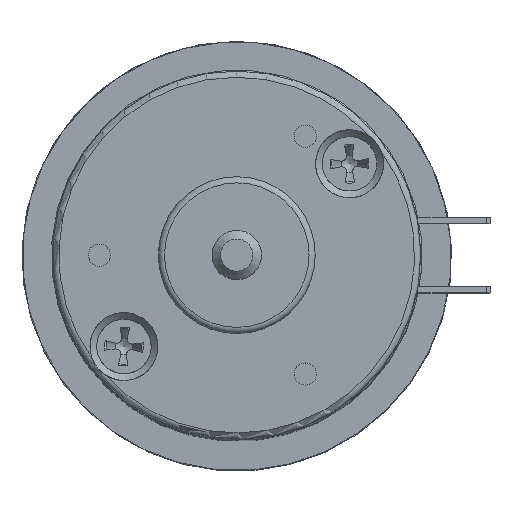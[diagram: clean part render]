
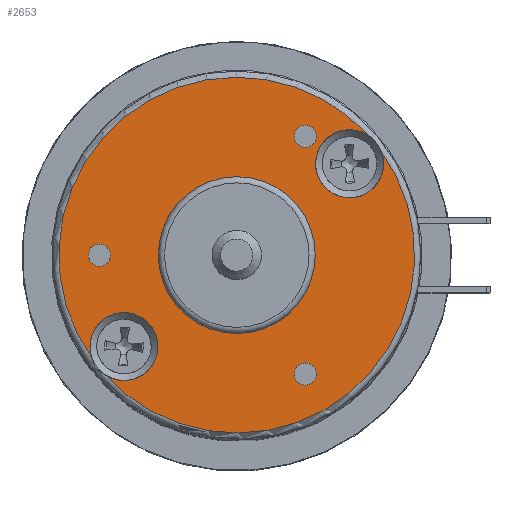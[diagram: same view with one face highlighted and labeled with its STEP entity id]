
A CAD part, top view. The second image highlights one B-rep face of the part: STEP entity #2653.
In plain terms, the highlighted planar face has unit normal (0, 0, 1).
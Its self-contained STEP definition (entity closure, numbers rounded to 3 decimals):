
#1980=CARTESIAN_POINT('',(0.,-6.35,76.7));
#1981=VERTEX_POINT('',#1980);
#1982=CARTESIAN_POINT('',(0.,0.,76.7));
#1983=DIRECTION('',(0.0,0.0,-1.0));
#1984=DIRECTION('',(0.0,1.0,0.0));
#1985=AXIS2_PLACEMENT_3D('',#1982,#1983,#1984);
#1986=CIRCLE('',#1985,6.35);
#1987=EDGE_CURVE('',#1981,#1981,#1986,.T.);
#2528=CARTESIAN_POINT('',(10.661,9.68,76.7));
#2529=VERTEX_POINT('',#2528);
#2530=CARTESIAN_POINT('',(11.685,8.416,76.7));
#2531=VERTEX_POINT('',#2530);
#2551=CARTESIAN_POINT('',(-10.661,-9.68,76.7));
#2552=VERTEX_POINT('',#2551);
#2553=CARTESIAN_POINT('',(0.,0.,76.7));
#2554=DIRECTION('',(0.0,0.0,-1.0));
#2555=DIRECTION('',(0.0,-1.0,0.0));
#2556=AXIS2_PLACEMENT_3D('',#2553,#2554,#2555);
#2557=CIRCLE('',#2556,14.4);
#2558=EDGE_CURVE('',#2531,#2552,#2557,.T.);
#2560=CARTESIAN_POINT('',(-11.685,-8.416,76.7));
#2561=VERTEX_POINT('',#2560);
#2581=CARTESIAN_POINT('',(0.,0.,76.7));
#2582=DIRECTION('',(0.0,0.0,-1.0));
#2583=DIRECTION('',(0.0,-1.0,0.0));
#2584=AXIS2_PLACEMENT_3D('',#2581,#2582,#2583);
#2585=CIRCLE('',#2584,14.4);
#2586=EDGE_CURVE('',#2561,#2529,#2585,.T.);
#2594=CARTESIAN_POINT('',(0.,0.,76.7));
#2595=DIRECTION('',(0.0,0.0,-1.0));
#2596=DIRECTION('',(0.0,1.0,0.0));
#2597=AXIS2_PLACEMENT_3D('',#2594,#2595,#2596);
#2598=PLANE('',#2597);
#2599=CARTESIAN_POINT('',(9.131,7.395,76.7));
#2600=DIRECTION('',(0.0,0.0,-1.0));
#2601=DIRECTION('',(0.0,-1.0,0.0));
#2602=AXIS2_PLACEMENT_3D('',#2599,#2600,#2601);
#2603=CIRCLE('',#2602,2.75);
#2604=EDGE_CURVE('',#2531,#2529,#2603,.T.);
#2605=ORIENTED_EDGE('',*,*,#2604,.T.);
#2606=ORIENTED_EDGE('',*,*,#2586,.F.);
#2607=CARTESIAN_POINT('',(-9.131,-7.395,76.7));
#2608=DIRECTION('',(0.0,0.0,-1.0));
#2609=DIRECTION('',(0.0,-1.0,0.0));
#2610=AXIS2_PLACEMENT_3D('',#2607,#2608,#2609);
#2611=CIRCLE('',#2610,2.75);
#2612=EDGE_CURVE('',#2561,#2552,#2611,.T.);
#2613=ORIENTED_EDGE('',*,*,#2612,.T.);
#2614=ORIENTED_EDGE('',*,*,#2558,.F.);
#2615=EDGE_LOOP('',(#2605,#2606,#2613,#2614));
#2616=FACE_OUTER_BOUND('',#2615,.T.);
#2617=CARTESIAN_POINT('',(-11.113,-0.9,76.7));
#2618=VERTEX_POINT('',#2617);
#2619=CARTESIAN_POINT('',(-11.113,0.,76.7));
#2620=DIRECTION('',(0.0,0.0,-1.0));
#2621=DIRECTION('',(0.0,-1.0,0.0));
#2622=AXIS2_PLACEMENT_3D('',#2619,#2620,#2621);
#2623=CIRCLE('',#2622,0.9);
#2624=EDGE_CURVE('',#2618,#2618,#2623,.T.);
#2625=ORIENTED_EDGE('',*,*,#2624,.T.);
#2626=EDGE_LOOP('',(#2625));
#2627=FACE_BOUND('',#2626,.T.);
#2628=CARTESIAN_POINT('',(5.556,8.724,76.7));
#2629=VERTEX_POINT('',#2628);
#2630=CARTESIAN_POINT('',(5.556,9.624,76.7));
#2631=DIRECTION('',(0.0,0.0,-1.0));
#2632=DIRECTION('',(0.0,-1.0,0.0));
#2633=AXIS2_PLACEMENT_3D('',#2630,#2631,#2632);
#2634=CIRCLE('',#2633,0.9);
#2635=EDGE_CURVE('',#2629,#2629,#2634,.T.);
#2636=ORIENTED_EDGE('',*,*,#2635,.T.);
#2637=EDGE_LOOP('',(#2636));
#2638=FACE_BOUND('',#2637,.T.);
#2639=CARTESIAN_POINT('',(5.556,-10.524,76.7));
#2640=VERTEX_POINT('',#2639);
#2641=CARTESIAN_POINT('',(5.556,-9.624,76.7));
#2642=DIRECTION('',(0.0,0.0,-1.0));
#2643=DIRECTION('',(0.0,-1.0,0.0));
#2644=AXIS2_PLACEMENT_3D('',#2641,#2642,#2643);
#2645=CIRCLE('',#2644,0.9);
#2646=EDGE_CURVE('',#2640,#2640,#2645,.T.);
#2647=ORIENTED_EDGE('',*,*,#2646,.T.);
#2648=EDGE_LOOP('',(#2647));
#2649=FACE_BOUND('',#2648,.T.);
#2650=ORIENTED_EDGE('',*,*,#1987,.T.);
#2651=EDGE_LOOP('',(#2650));
#2652=FACE_BOUND('',#2651,.T.);
#2653=ADVANCED_FACE('',(#2616,#2627,#2638,#2649,#2652),#2598,.F.);
